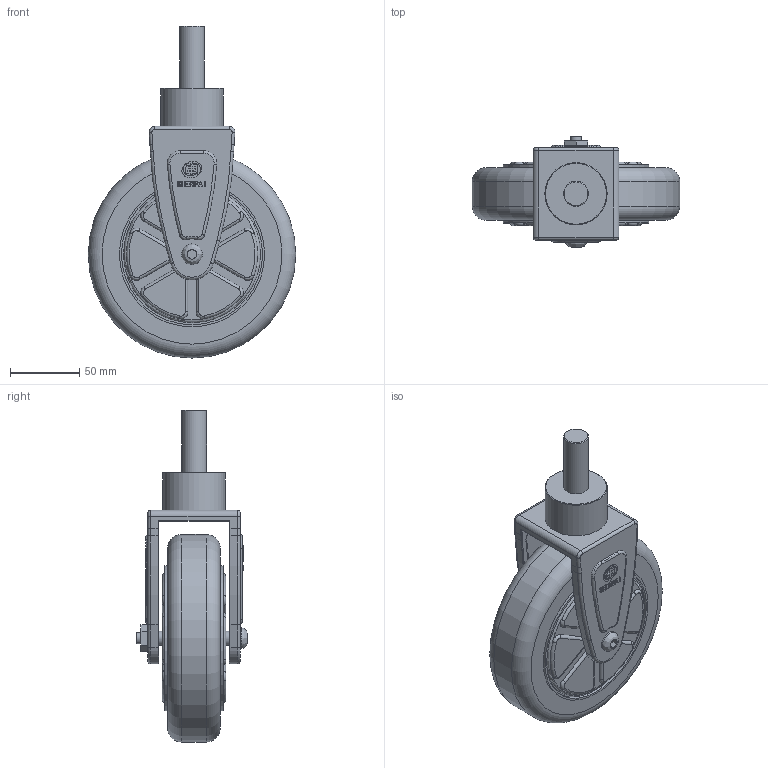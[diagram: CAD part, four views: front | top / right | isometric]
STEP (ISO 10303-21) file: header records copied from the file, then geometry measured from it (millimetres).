
FILE_DESCRIPTION(/* description */ (''),/* implementation_level */ '2;1');
FILE_NAME(/* name */ '25D06_6_F.stp',/* time_stamp */ '2022-10-06T15:48:08+08:00',/* author */ (''),/* organization */ (''),/* preprocessor_version */ 'ST-DEVELOPER v14',/* originating_system */ 'SIEMENS PLM Software NX 8.0',/* authorisation */ '');
FILE_SCHEMA (('AUTOMOTIVE_DESIGN { 1 0 10303 214 3 1 1 1 }'));
Length unit declared in the file: millimetre
Products named in the file (1): 25D06_6_F
Bounding box: 150 x 79.84 x 240 mm (x, y, z)
Volume: 780968.1 mm3; surface area: 99309.7 mm2
Topology: 1 solids, 2 shells, 527 faces, 1323 edges, 828 vertices
Faces by surface type: plane 238, cylinder 140, torus 110, sphere 24, bspline 13, cone 2
Full cylindrical faces by diameter (mm): 8 x1, 8.2 x2, 10.2 x2, 15 x1, 18 x1, 45 x1, 102 x2, 105 x2, 150 x1
Entity records: 16166 total; most frequent: CARTESIAN_POINT 3946, ORIENTED_EDGE 2560, DIRECTION 2555, EDGE_CURVE 1280, AXIS2_PLACEMENT_3D 1042, VERTEX_POINT 815, EDGE_LOOP 587, ADVANCED_FACE 527
